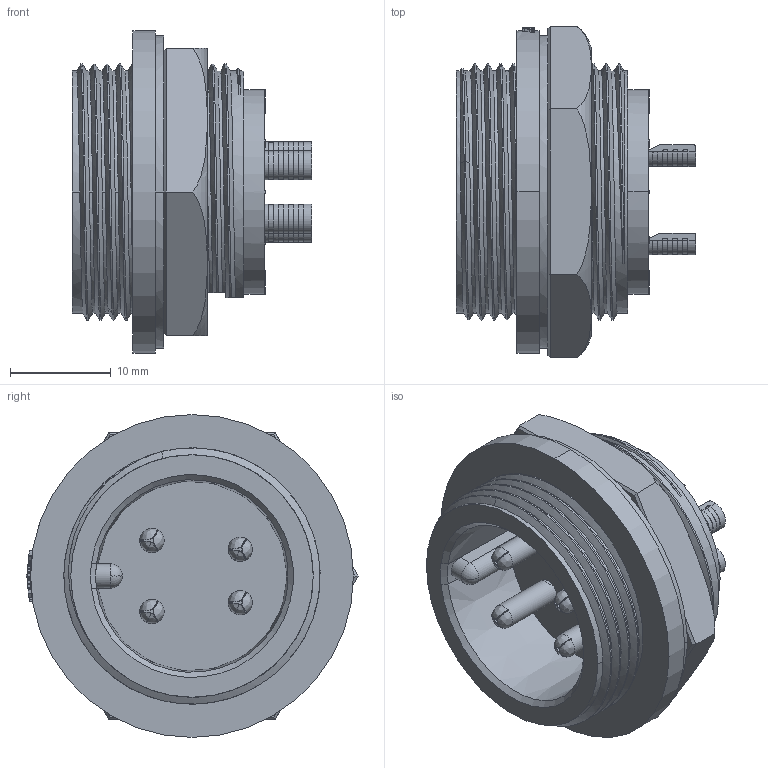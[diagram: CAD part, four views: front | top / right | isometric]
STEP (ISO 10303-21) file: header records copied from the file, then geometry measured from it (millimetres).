
FILE_DESCRIPTION((''),'2;1');
FILE_NAME('ADC-05RMMS-SC7001_SW0001','2016-06-25T',('KS7307'),(''),'PRO/ENGINEER BY PARAMETRIC TECHNOLOGY CORPORATION, 2013050','PRO/ENGINEER BY PARAMETRIC TECHNOLOGY CORPORATION, 2013050','');
FILE_SCHEMA(('CONFIG_CONTROL_DESIGN'));
Length unit declared in the file: millimetre
Products named in the file (1): ADC-05RMMS-SC7001_SW0001
Bounding box: 23.7 x 32.91 x 32 mm (x, y, z)
Volume: 7992.1 mm3; surface area: 5533.5 mm2
Topology: 1 solids, 1 shells, 910 faces, 2665 edges, 1750 vertices
Faces by surface type: plane 451, cylinder 317, bspline 60, extrusion 56, torus 18, cone 6, sphere 2
Entity records: 44207 total; most frequent: CARTESIAN_POINT 18241, ORIENTED_EDGE 5330, DIRECTION 4392, EDGE_CURVE 2665, VERTEX_POINT 1750, VECTOR 1552, LINE 1496, AXIS2_PLACEMENT_3D 1420
